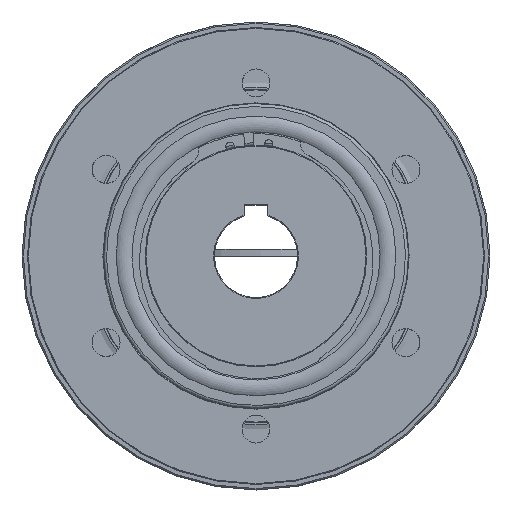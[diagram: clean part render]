
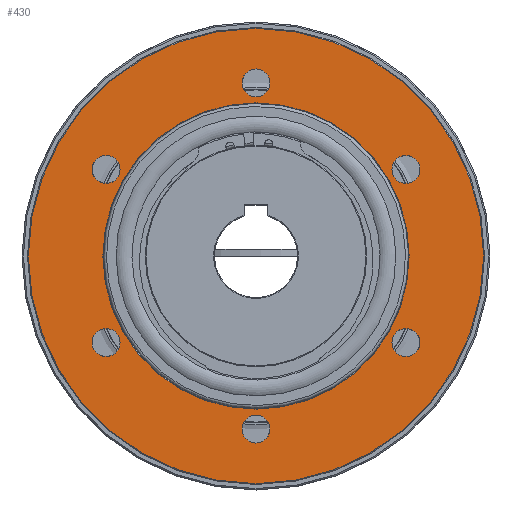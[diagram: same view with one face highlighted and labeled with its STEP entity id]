
A CAD part, left-side view. The second image highlights one B-rep face of the part: STEP entity #430.
In plain terms, the highlighted planar face has unit normal (-1, 0, 0).
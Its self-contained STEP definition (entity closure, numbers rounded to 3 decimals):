
#430 = ADVANCED_FACE( '', ( #769, #770, #771, #772, #773, #774, #775, #776 ), #777, .F. );
#769 = FACE_OUTER_BOUND( '', #1112, .T. );
#770 = FACE_BOUND( '', #1113, .T. );
#771 = FACE_BOUND( '', #1114, .T. );
#772 = FACE_BOUND( '', #1115, .T. );
#773 = FACE_BOUND( '', #1116, .T. );
#774 = FACE_BOUND( '', #1117, .T. );
#775 = FACE_BOUND( '', #1118, .T. );
#776 = FACE_BOUND( '', #1119, .T. );
#777 = PLANE( '', #1120 );
#1112 = EDGE_LOOP( '', ( #1759 ) );
#1113 = EDGE_LOOP( '', ( #1760 ) );
#1114 = EDGE_LOOP( '', ( #1761 ) );
#1115 = EDGE_LOOP( '', ( #1762 ) );
#1116 = EDGE_LOOP( '', ( #1763 ) );
#1117 = EDGE_LOOP( '', ( #1764 ) );
#1118 = EDGE_LOOP( '', ( #1765 ) );
#1119 = EDGE_LOOP( '', ( #1766 ) );
#1120 = AXIS2_PLACEMENT_3D( '', #1767, #1768, #1769 );
#1759 = ORIENTED_EDGE( '', *, *, #2008, .T. );
#1760 = ORIENTED_EDGE( '', *, *, #2009, .T. );
#1761 = ORIENTED_EDGE( '', *, *, #2012, .T. );
#1762 = ORIENTED_EDGE( '', *, *, #2013, .T. );
#1763 = ORIENTED_EDGE( '', *, *, #2014, .T. );
#1764 = ORIENTED_EDGE( '', *, *, #2015, .T. );
#1765 = ORIENTED_EDGE( '', *, *, #2016, .T. );
#1766 = ORIENTED_EDGE( '', *, *, #2017, .T. );
#1767 = CARTESIAN_POINT( '', ( -30.5, 82.5, 0. ) );
#1768 = DIRECTION( '', ( 1., 0., 0. ) );
#1769 = DIRECTION( '', ( 0., 1., 0. ) );
#2008 = EDGE_CURVE( '', #2301, #2301, #2302, .T. );
#2009 = EDGE_CURVE( '', #2303, #2303, #2304, .T. );
#2012 = EDGE_CURVE( '', #2309, #2309, #2310, .T. );
#2013 = EDGE_CURVE( '', #2311, #2311, #2312, .T. );
#2014 = EDGE_CURVE( '', #2313, #2313, #2314, .T. );
#2015 = EDGE_CURVE( '', #2315, #2315, #2316, .T. );
#2016 = EDGE_CURVE( '', #2317, #2317, #2318, .T. );
#2017 = EDGE_CURVE( '', #2319, #2319, #2320, .T. );
#2301 = VERTEX_POINT( '', #2997 );
#2302 = CIRCLE( '', #2998, 82.2 );
#2303 = VERTEX_POINT( '', #2999 );
#2304 = CIRCLE( '', #3000, 55.3 );
#2309 = VERTEX_POINT( '', #3005 );
#2310 = CIRCLE( '', #3006, 5.053 );
#2311 = VERTEX_POINT( '', #3007 );
#2312 = CIRCLE( '', #3008, 5.053 );
#2313 = VERTEX_POINT( '', #3009 );
#2314 = CIRCLE( '', #3010, 5.053 );
#2315 = VERTEX_POINT( '', #3011 );
#2316 = CIRCLE( '', #3012, 5.053 );
#2317 = VERTEX_POINT( '', #3013 );
#2318 = CIRCLE( '', #3014, 5.053 );
#2319 = VERTEX_POINT( '', #3015 );
#2320 = CIRCLE( '', #3016, 5.053 );
#2997 = CARTESIAN_POINT( '', ( -30.5, 0., -82.2 ) );
#2998 = AXIS2_PLACEMENT_3D( '', #3356, #3357, #3358 );
#2999 = CARTESIAN_POINT( '', ( -30.5, 0., -55.3 ) );
#3000 = AXIS2_PLACEMENT_3D( '', #3359, #3360, #3361 );
#3005 = CARTESIAN_POINT( '', ( -30.5, 58.503, 33.777 ) );
#3006 = AXIS2_PLACEMENT_3D( '', #3368, #3369, #3370 );
#3007 = CARTESIAN_POINT( '', ( -30.5, 58.503, -33.777 ) );
#3008 = AXIS2_PLACEMENT_3D( '', #3371, #3372, #3373 );
#3009 = CARTESIAN_POINT( '', ( -30.5, 0., -67.553 ) );
#3010 = AXIS2_PLACEMENT_3D( '', #3374, #3375, #3376 );
#3011 = CARTESIAN_POINT( '', ( -30.5, -58.503, -33.777 ) );
#3012 = AXIS2_PLACEMENT_3D( '', #3377, #3378, #3379 );
#3013 = CARTESIAN_POINT( '', ( -30.5, -58.503, 33.777 ) );
#3014 = AXIS2_PLACEMENT_3D( '', #3380, #3381, #3382 );
#3015 = CARTESIAN_POINT( '', ( -30.5, 0., 67.553 ) );
#3016 = AXIS2_PLACEMENT_3D( '', #3383, #3384, #3385 );
#3356 = CARTESIAN_POINT( '', ( -30.5, 0., 0. ) );
#3357 = DIRECTION( '', ( -1., 0., 0. ) );
#3358 = DIRECTION( '', ( 0., 0., -1. ) );
#3359 = CARTESIAN_POINT( '', ( -30.5, 0., 0. ) );
#3360 = DIRECTION( '', ( 1., 0., 0. ) );
#3361 = DIRECTION( '', ( 0., 0., -1. ) );
#3368 = CARTESIAN_POINT( '', ( -30.5, 54.127, 31.25 ) );
#3369 = DIRECTION( '', ( 1., 0., 0. ) );
#3370 = DIRECTION( '', ( 0., 0.866, 0.5 ) );
#3371 = CARTESIAN_POINT( '', ( -30.5, 54.127, -31.25 ) );
#3372 = DIRECTION( '', ( 1., 0., 0. ) );
#3373 = DIRECTION( '', ( 0., 0.866, -0.5 ) );
#3374 = CARTESIAN_POINT( '', ( -30.5, 0., -62.5 ) );
#3375 = DIRECTION( '', ( 1., 0., 0. ) );
#3376 = DIRECTION( '', ( 0., 0., -1. ) );
#3377 = CARTESIAN_POINT( '', ( -30.5, -54.127, -31.25 ) );
#3378 = DIRECTION( '', ( 1., 0., 0. ) );
#3379 = DIRECTION( '', ( 0., -0.866, -0.5 ) );
#3380 = CARTESIAN_POINT( '', ( -30.5, -54.127, 31.25 ) );
#3381 = DIRECTION( '', ( 1., 0., 0. ) );
#3382 = DIRECTION( '', ( 0., -0.866, 0.5 ) );
#3383 = CARTESIAN_POINT( '', ( -30.5, 0., 62.5 ) );
#3384 = DIRECTION( '', ( 1., 0., 0. ) );
#3385 = DIRECTION( '', ( 0., 0., 1. ) );
